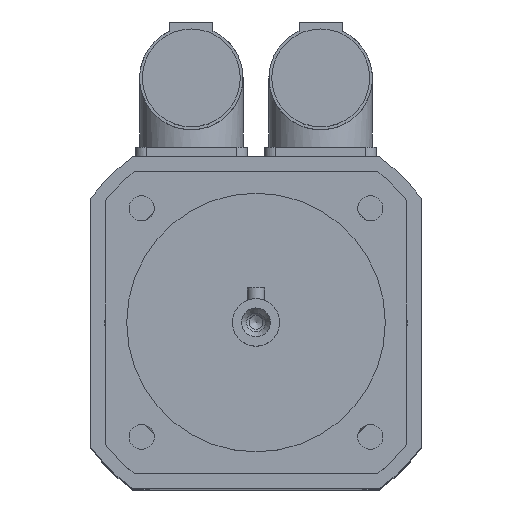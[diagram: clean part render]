
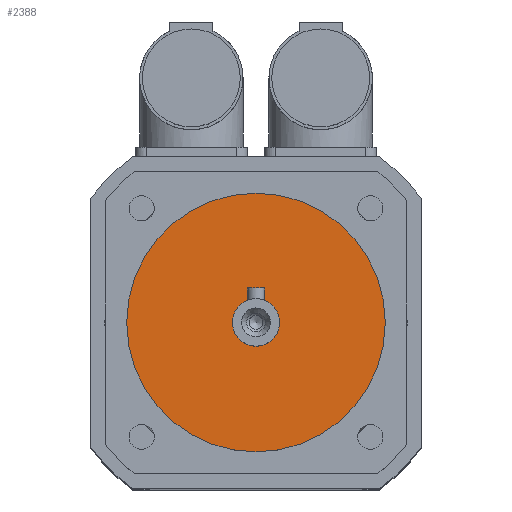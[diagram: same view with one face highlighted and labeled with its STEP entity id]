
A CAD part, top view. The second image highlights one B-rep face of the part: STEP entity #2388.
In plain terms, the highlighted planar face has unit normal (0, 0, 1).
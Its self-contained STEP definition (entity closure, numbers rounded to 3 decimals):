
#484=PLANE('',#2572);
#601=FACE_BOUND('',#819,.T.);
#665=FACE_OUTER_BOUND('',#818,.T.);
#818=EDGE_LOOP('',(#1867));
#819=EDGE_LOOP('',(#1868));
#965=CIRCLE('',#2571,5.5);
#966=CIRCLE('',#2573,30.);
#1130=VERTEX_POINT('',#3794);
#1131=VERTEX_POINT('',#3797);
#1405=EDGE_CURVE('',#1130,#1130,#965,.T.);
#1406=EDGE_CURVE('',#1131,#1131,#966,.T.);
#1867=ORIENTED_EDGE('',*,*,#1406,.F.);
#1868=ORIENTED_EDGE('',*,*,#1405,.T.);
#2388=ADVANCED_FACE('',(#665,#601),#484,.T.);
#2571=AXIS2_PLACEMENT_3D('',#3795,#2996,#2997);
#2572=AXIS2_PLACEMENT_3D('',#3796,#2998,#2999);
#2573=AXIS2_PLACEMENT_3D('',#3798,#3000,#3001);
#2996=DIRECTION('center_axis',(0.,0.,-1.));
#2997=DIRECTION('ref_axis',(1.,0.,0.));
#2998=DIRECTION('center_axis',(0.,0.,1.));
#2999=DIRECTION('ref_axis',(1.,0.,0.));
#3000=DIRECTION('center_axis',(0.,0.,-1.));
#3001=DIRECTION('ref_axis',(1.,0.,0.));
#3794=CARTESIAN_POINT('',(0.,5.5,183.));
#3795=CARTESIAN_POINT('Origin',(0.,0.,183.));
#3796=CARTESIAN_POINT('Origin',(0.,30.,183.));
#3797=CARTESIAN_POINT('',(0.,30.,183.));
#3798=CARTESIAN_POINT('Origin',(0.,0.,183.));
